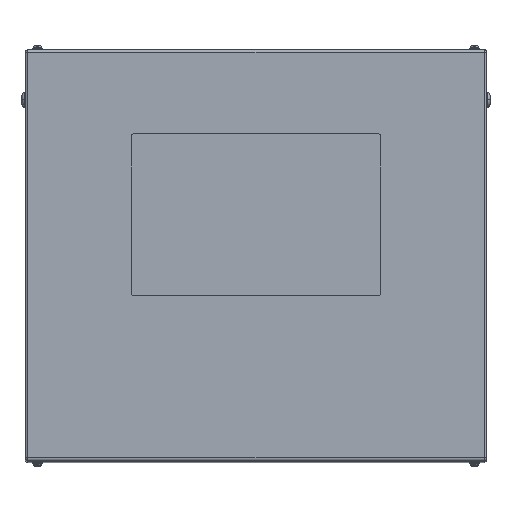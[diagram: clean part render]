
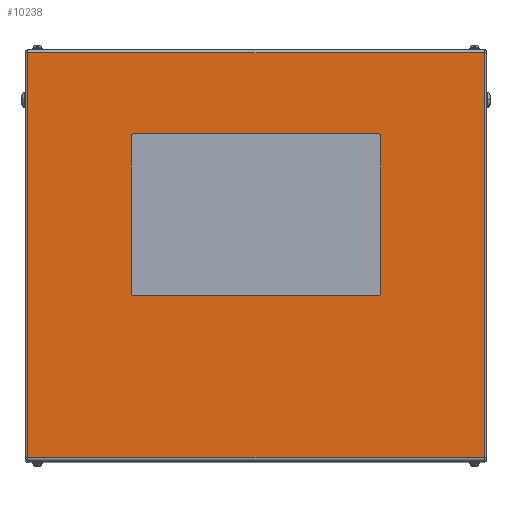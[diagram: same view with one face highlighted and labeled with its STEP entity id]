
A CAD part, top view. The second image highlights one B-rep face of the part: STEP entity #10238.
In plain terms, the highlighted planar face has unit normal (0, 0, 1).
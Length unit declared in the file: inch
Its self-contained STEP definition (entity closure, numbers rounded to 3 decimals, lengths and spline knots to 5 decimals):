
#248 = CARTESIAN_POINT ( 'NONE',  ( 10., -3., 29. ) ) ;
#372 = LINE ( 'NONE', #5068, #16826 ) ;
#454 = CIRCLE ( 'NONE', #3810, 0.25 ) ;
#517 = CIRCLE ( 'NONE', #5844, 0.25 ) ;
#723 = ORIENTED_EDGE ( 'NONE', *, *, #15152, .F. ) ;
#790 = VECTOR ( 'NONE', #5967, 39.37008 ) ;
#846 = DIRECTION ( 'NONE',  ( 0., 0., 1. ) ) ;
#1234 = DIRECTION ( 'NONE',  ( -1., 0., 0. ) ) ;
#1399 = CARTESIAN_POINT ( 'NONE',  ( 9.75, -3., 29. ) ) ;
#1453 = ORIENTED_EDGE ( 'NONE', *, *, #12757, .T. ) ;
#1586 = ORIENTED_EDGE ( 'NONE', *, *, #14147, .F. ) ;
#1729 = CARTESIAN_POINT ( 'NONE',  ( 18.5, 16.5, 29. ) ) ;
#1902 = CARTESIAN_POINT ( 'NONE',  ( -10., 9.5, 29. ) ) ;
#1932 = DIRECTION ( 'NONE',  ( 1., 0., 0. ) ) ;
#2445 = VERTEX_POINT ( 'NONE', #13635 ) ;
#2955 = VERTEX_POINT ( 'NONE', #8600 ) ;
#3065 = DIRECTION ( 'NONE',  ( 0., 0., 1. ) ) ;
#3222 = ORIENTED_EDGE ( 'NONE', *, *, #7320, .F. ) ;
#3810 = AXIS2_PLACEMENT_3D ( 'NONE', #1399, #3065, #6800 ) ;
#3988 = CARTESIAN_POINT ( 'NONE',  ( -9.75, 9.5, 29. ) ) ;
#4375 = EDGE_LOOP ( 'NONE', ( #16514, #16088, #5727, #1453 ) ) ;
#4613 = LINE ( 'NONE', #15641, #9892 ) ;
#4787 = VERTEX_POINT ( 'NONE', #7769 ) ;
#5068 = CARTESIAN_POINT ( 'NONE',  ( -10., 9.5, 29. ) ) ;
#5675 = LINE ( 'NONE', #12119, #19620 ) ;
#5727 = ORIENTED_EDGE ( 'NONE', *, *, #8988, .T. ) ;
#5844 = AXIS2_PLACEMENT_3D ( 'NONE', #11027, #12728, #14628 ) ;
#5967 = DIRECTION ( 'NONE',  ( 0., 1., 0. ) ) ;
#6589 = CARTESIAN_POINT ( 'NONE',  ( -10., -3., 29. ) ) ;
#6634 = VERTEX_POINT ( 'NONE', #1902 ) ;
#6800 = DIRECTION ( 'NONE',  ( 1., 0., 0. ) ) ;
#7320 = EDGE_CURVE ( 'NONE', #19786, #9012, #10910, .T. ) ;
#7364 = DIRECTION ( 'NONE',  ( 0., -1., 0. ) ) ;
#7517 = EDGE_CURVE ( 'NONE', #8012, #4787, #4613, .T. ) ;
#7547 = CARTESIAN_POINT ( 'NONE',  ( 18.3, 16.5, 29. ) ) ;
#7663 = FACE_BOUND ( 'NONE', #13315, .T. ) ;
#7769 = CARTESIAN_POINT ( 'NONE',  ( 18.3, -16.234, 29. ) ) ;
#7983 = PLANE ( 'NONE',  #18605 ) ;
#8012 = VERTEX_POINT ( 'NONE', #16404 ) ;
#8307 = DIRECTION ( 'NONE',  ( 0., 0., -1. ) ) ;
#8439 = DIRECTION ( 'NONE',  ( 0., -1., 0. ) ) ;
#8557 = AXIS2_PLACEMENT_3D ( 'NONE', #16057, #17976, #1932 ) ;
#8600 = CARTESIAN_POINT ( 'NONE',  ( 9.75, 9.75, 29. ) ) ;
#8619 = CARTESIAN_POINT ( 'NONE',  ( -9.75, -3.25, 29. ) ) ;
#8673 = CARTESIAN_POINT ( 'NONE',  ( 9.75, -3.25, 29. ) ) ;
#8729 = EDGE_CURVE ( 'NONE', #2955, #2445, #15572, .T. ) ;
#8988 = EDGE_CURVE ( 'NONE', #4787, #12011, #15545, .T. ) ;
#9012 = VERTEX_POINT ( 'NONE', #15745 ) ;
#9106 = EDGE_CURVE ( 'NONE', #15366, #12904, #454, .T. ) ;
#9141 = AXIS2_PLACEMENT_3D ( 'NONE', #3988, #846, #16777 ) ;
#9560 = VECTOR ( 'NONE', #18301, 39.37008 ) ;
#9892 = VECTOR ( 'NONE', #15522, 39.37008 ) ;
#10238 = ADVANCED_FACE ( 'NONE', ( #7663, #15770 ), #7983, .F. ) ;
#10910 = CIRCLE ( 'NONE', #8557, 0.25 ) ;
#11027 = CARTESIAN_POINT ( 'NONE',  ( 9.75, 9.5, 29. ) ) ;
#11676 = ORIENTED_EDGE ( 'NONE', *, *, #13288, .F. ) ;
#12011 = VERTEX_POINT ( 'NONE', #14261 ) ;
#12119 = CARTESIAN_POINT ( 'NONE',  ( 18.5, 16.234, 29. ) ) ;
#12327 = CARTESIAN_POINT ( 'NONE',  ( -18.3, 16.5, 29. ) ) ;
#12425 = CARTESIAN_POINT ( 'NONE',  ( -9.75, 9.75, 29. ) ) ;
#12728 = DIRECTION ( 'NONE',  ( 0., 0., 1. ) ) ;
#12757 = EDGE_CURVE ( 'NONE', #12011, #20500, #5675, .T. ) ;
#12904 = VERTEX_POINT ( 'NONE', #248 ) ;
#13288 = EDGE_CURVE ( 'NONE', #2445, #6634, #20579, .T. ) ;
#13315 = EDGE_LOOP ( 'NONE', ( #723, #3222, #20182, #11676, #16933, #15721, #1586, #19566 ) ) ;
#13635 = CARTESIAN_POINT ( 'NONE',  ( -9.75, 9.75, 29. ) ) ;
#13898 = CARTESIAN_POINT ( 'NONE',  ( -18.3, 16.234, 29. ) ) ;
#13992 = VECTOR ( 'NONE', #7364, 39.37008 ) ;
#14147 = EDGE_CURVE ( 'NONE', #12904, #17153, #15930, .T. ) ;
#14261 = CARTESIAN_POINT ( 'NONE',  ( 18.3, 16.234, 29. ) ) ;
#14477 = DIRECTION ( 'NONE',  ( 0., 1., 0. ) ) ;
#14628 = DIRECTION ( 'NONE',  ( -1., 0., 0. ) ) ;
#15152 = EDGE_CURVE ( 'NONE', #9012, #15366, #20166, .T. ) ;
#15366 = VERTEX_POINT ( 'NONE', #8673 ) ;
#15522 = DIRECTION ( 'NONE',  ( 1., 0., 0. ) ) ;
#15545 = LINE ( 'NONE', #7547, #790 ) ;
#15572 = LINE ( 'NONE', #12425, #18885 ) ;
#15641 = CARTESIAN_POINT ( 'NONE',  ( 18.3, -16.234, 29. ) ) ;
#15721 = ORIENTED_EDGE ( 'NONE', *, *, #20664, .F. ) ;
#15745 = CARTESIAN_POINT ( 'NONE',  ( -9.75, -3.25, 29. ) ) ;
#15770 = FACE_OUTER_BOUND ( 'NONE', #4375, .T. ) ;
#15930 = LINE ( 'NONE', #17732, #19982 ) ;
#16057 = CARTESIAN_POINT ( 'NONE',  ( -9.75, -3., 29. ) ) ;
#16088 = ORIENTED_EDGE ( 'NONE', *, *, #7517, .T. ) ;
#16404 = CARTESIAN_POINT ( 'NONE',  ( -18.3, -16.234, 29. ) ) ;
#16514 = ORIENTED_EDGE ( 'NONE', *, *, #20529, .T. ) ;
#16777 = DIRECTION ( 'NONE',  ( 1., 0., 0. ) ) ;
#16826 = VECTOR ( 'NONE', #8439, 39.37008 ) ;
#16933 = ORIENTED_EDGE ( 'NONE', *, *, #8729, .F. ) ;
#17153 = VERTEX_POINT ( 'NONE', #19195 ) ;
#17520 = EDGE_CURVE ( 'NONE', #6634, #19786, #372, .T. ) ;
#17732 = CARTESIAN_POINT ( 'NONE',  ( 10., 9.5, 29. ) ) ;
#17976 = DIRECTION ( 'NONE',  ( 0., 0., 1. ) ) ;
#18301 = DIRECTION ( 'NONE',  ( 1., 0., 0. ) ) ;
#18605 = AXIS2_PLACEMENT_3D ( 'NONE', #1729, #8307, #19670 ) ;
#18642 = DIRECTION ( 'NONE',  ( -1., 0., 0. ) ) ;
#18885 = VECTOR ( 'NONE', #1234, 39.37008 ) ;
#19195 = CARTESIAN_POINT ( 'NONE',  ( 10., 9.5, 29. ) ) ;
#19566 = ORIENTED_EDGE ( 'NONE', *, *, #9106, .F. ) ;
#19620 = VECTOR ( 'NONE', #18642, 39.37008 ) ;
#19670 = DIRECTION ( 'NONE',  ( -1., 0., 0. ) ) ;
#19786 = VERTEX_POINT ( 'NONE', #6589 ) ;
#19982 = VECTOR ( 'NONE', #14477, 39.37008 ) ;
#20166 = LINE ( 'NONE', #8619, #9560 ) ;
#20182 = ORIENTED_EDGE ( 'NONE', *, *, #17520, .F. ) ;
#20292 = LINE ( 'NONE', #12327, #13992 ) ;
#20500 = VERTEX_POINT ( 'NONE', #13898 ) ;
#20529 = EDGE_CURVE ( 'NONE', #20500, #8012, #20292, .T. ) ;
#20579 = CIRCLE ( 'NONE', #9141, 0.25 ) ;
#20664 = EDGE_CURVE ( 'NONE', #17153, #2955, #517, .T. ) ;
